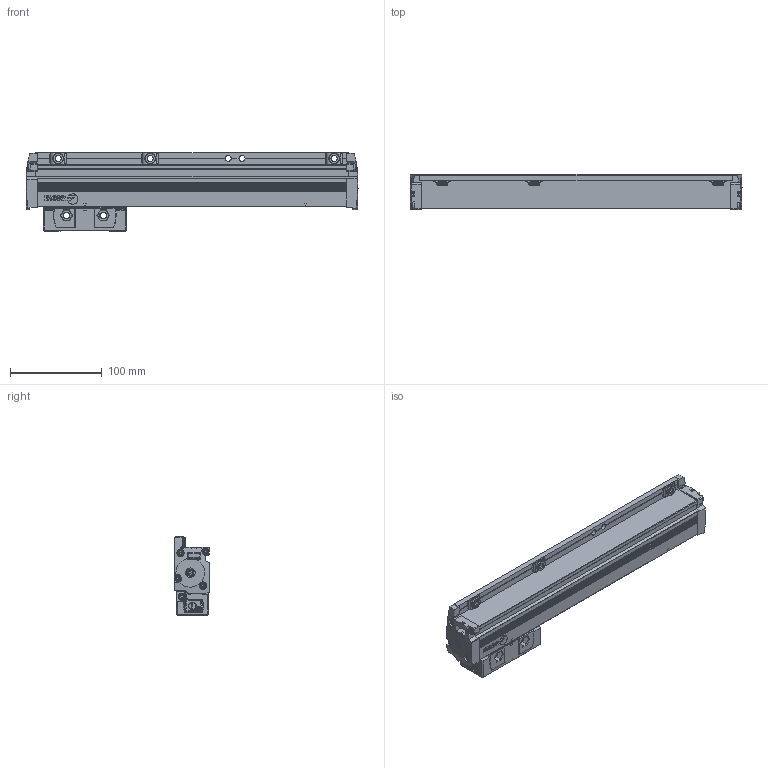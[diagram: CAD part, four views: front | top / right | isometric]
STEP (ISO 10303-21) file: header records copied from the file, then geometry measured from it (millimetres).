
FILE_DESCRIPTION(('Creo Elements/Direct Modeling STEP Export'),'2;1');
FILE_NAME('Regla G2-240.stp','2015-09-30T15:05:07',(''),(''),'Creo Elements/Direct Modeling STEP processor for AP214 (Solid Model)','Creo Elements/Direct Modeling 18.1G 27-Feb-2015 (C) Parametric Technology GmbH','');
FILE_SCHEMA(('AUTOMOTIVE_DESIGN { 1 0 10303 214 1 1 1 1 }'));
Length unit declared in the file: millimetre
Products named in the file (3): REGLA; CABEZA; Regla_G2_cm240
Assembly tree (2 placements, depth 2):
  Regla_G2_cm240
    CABEZA
    REGLA
Bounding box: 361 x 38 x 85 mm (x, y, z)
Volume: 608460.9 mm3; surface area: 125164.4 mm2
Topology: 2 solids, 7 shells, 1234 faces, 3429 edges, 2236 vertices
Faces by surface type: plane 576, cylinder 476, cone 112, torus 36, bspline 30, sphere 4
Entity records: 46904 total; most frequent: CARTESIAN_POINT 15809, ORIENTED_EDGE 6842, DIRECTION 6103, EDGE_CURVE 3421, VERTEX_POINT 2236, AXIS2_PLACEMENT_3D 2179, VECTOR 1745, LINE 1745
